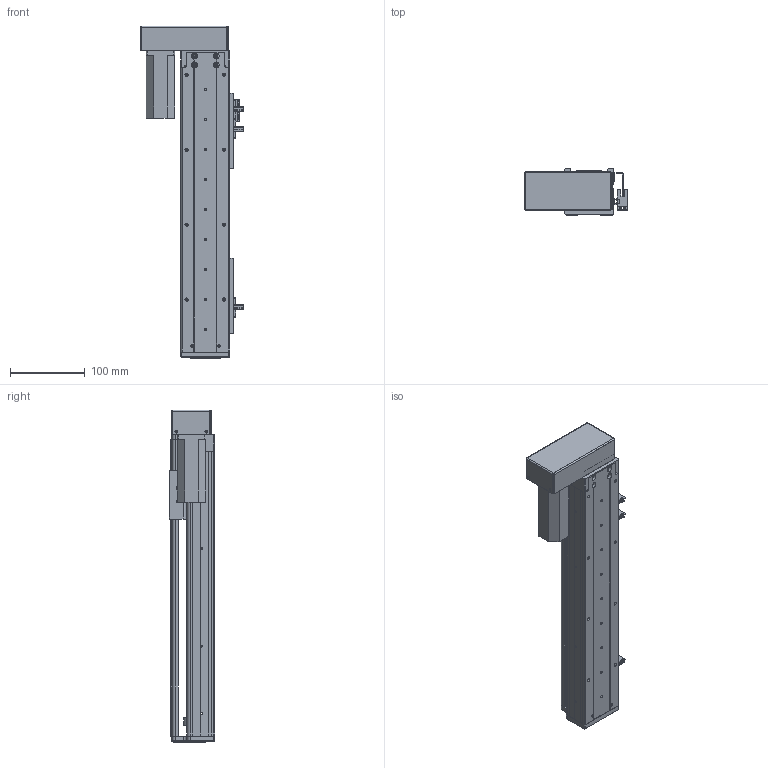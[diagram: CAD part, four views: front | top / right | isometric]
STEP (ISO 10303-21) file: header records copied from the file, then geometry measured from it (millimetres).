
FILE_DESCRIPTION (( 'STEP AP203' ), '1' );
FILE_NAME ('RY60-L1210-300-LK.SLDASM_250.step', '2021-02-20T06:53:52', ( '盈信电脑' ), ( '东莞市道滘镇水果街19号' ), 'SwSTEP 2.0', 'SolidWorks 2012', '' );
FILE_SCHEMA (( 'CONFIG_CONTROL_DESIGN' ));
Length unit declared in the file: millimetre
Products named in the file (14): RY60-L1210-300-LK.SLDASM_250; RY60酘衵殏萇儂欶; RY60左右折电机安装板-PCD46-M4; 侂狟100W; RY60转折电机端支撑座; 覜茼ん672; 滅袉蝶18-10; RY80俋离覜茼え; RY60綴裔啣; 672嫖萇羲壽假蚾釱; RY60臏賑輸; RY60-300倰第裔啣-LK_250; RY60-300倰第菁釱-LK_250; RY60-300-MGW12絳寢-LK_250
Assembly tree (19 placements, depth 2):
  RY60-L1210-300-LK.SLDASM_250
    RY60-300倰第菁釱-LK_250
    RY60-300-MGW12絳寢-LK_250
    RY60臏賑輸
    RY60-300倰第裔啣-LK_250
    672嫖萇羲壽假蚾釱  x2
    RY60綴裔啣
    覜茼ん672  x3
    RY80俋离覜茼え
    滅袉蝶18-10  x4
    RY60转折电机端支撑座
    RY60左右折电机安装板-PCD46-M4
    侂狟100W
    RY60酘衵殏萇儂欶
Bounding box: 137.9 x 61 x 443 mm (x, y, z)
Volume: 746733.5 mm3; surface area: 357606.3 mm2
Topology: 19 solids, 19 shells, 1433 faces, 3956 edges, 2538 vertices
Faces by surface type: plane 712, cylinder 602, cone 102, bspline 17
Entity records: 42094 total; most frequent: CARTESIAN_POINT 9533, ORIENTED_EDGE 6492, DIRECTION 6394, EDGE_CURVE 3246, AXIS2_PLACEMENT_3D 2209, VERTEX_POINT 2118, LINE 1976, VECTOR 1976
